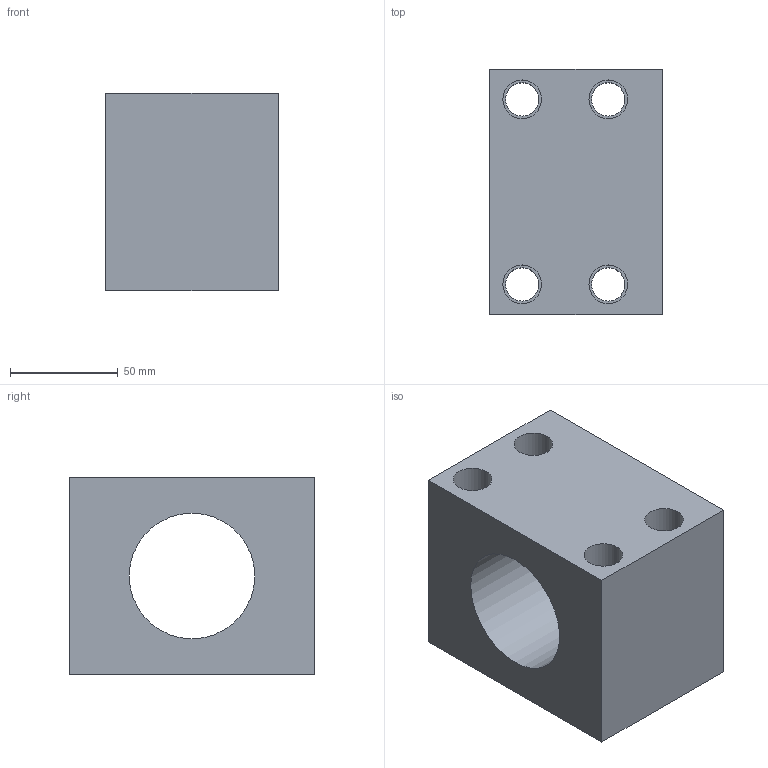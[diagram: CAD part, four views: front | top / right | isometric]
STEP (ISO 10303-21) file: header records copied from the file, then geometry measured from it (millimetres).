
FILE_DESCRIPTION(/* description */ (''),/* implementation_level */ '2;1');
FILE_NAME(/* name */ 'NH40A.stp',/* time_stamp */ '2017-08-19T10:30:24+08:00',/* author */ (''),/* organization */ (''),/* preprocessor_version */ 'ST-DEVELOPER v15',/* originating_system */ 'SIEMENS PLM Software NX 9.0',/* authorisation */ '');
FILE_SCHEMA (('CONFIG_CONTROL_DESIGN'));
Length unit declared in the file: millimetre
Products named in the file (1): NH40A
Bounding box: 80 x 114 x 92 mm (x, y, z)
Volume: 521942.1 mm3; surface area: 85263.3 mm2
Topology: 1 solids, 1 shells, 39 faces, 91 edges, 62 vertices
Faces by surface type: cylinder 19, plane 14, cone 6
Full cylindrical faces by diameter (mm): 6.8 x6, 15.5 x4, 18 x4, 25 x4, 58.4 x1
Entity records: 994 total; most frequent: DIRECTION 168, CARTESIAN_POINT 142, ORIENTED_EDGE 100, FACE_BOUND 86, EDGE_LOOP 82, AXIS2_PLACEMENT_3D 78, VERTEX_POINT 52, EDGE_CURVE 50
